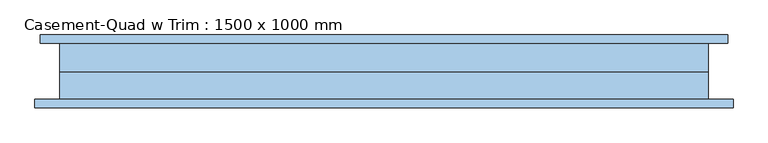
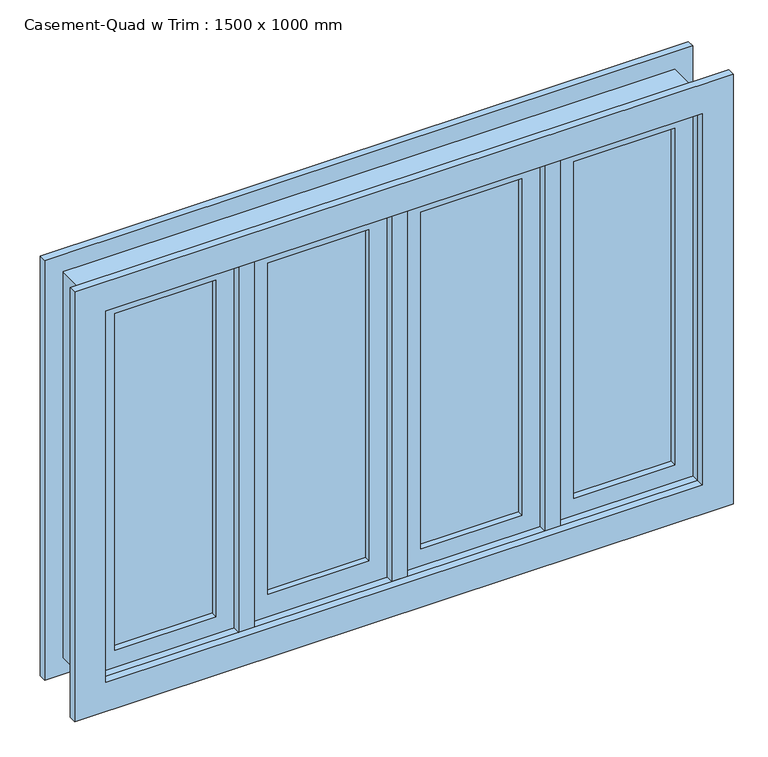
"""IFC4 building model written with IfcOpenShell, lengths in millimetres: window geometry, Casement-Quad w Trim : 1500 x 1000 mm."""

from ifc_helpers import new_model, si_unit, frame, origin, place, context, project, spatial, polyline, outline, extrude, source, transform, mapped, element, save


def casement_quad_w_trim_1500_x_1000_mm_b7d6dd6f(model_context):
    return source(origin(), model_context, "Body", "SweptSolid", [
        extrude(outline(polyline([(1958.85, 794.45), (1958.85, -794.45), (869.95, -794.45), (869.95, 794.45), (1958.85, 794.45)]), holes=[polyline([(1882.65, -718.25), (1882.65, 718.25), (946.15, 718.25), (946.15, -718.25), (1882.65, -718.25)])]), frame((0.0, 45.95, 0.0), z_axis=(0.0, 1.0, 0.0), x_axis=(0.0, 0.0, 1.0)), (0.0, 0.0, 1.0), 19.05),
        extrude(outline(polyline([(1971.55, -807.15), (857.25, -807.15), (857.25, 807.15), (1971.55, 807.15), (1971.55, -807.15)]), holes=[polyline([(1895.35, 730.95), (933.45, 730.95), (933.45, -730.95), (1895.35, -730.95), (1895.35, 730.95)])]), frame((0.0, -103.1, 0.0), z_axis=(0.0, 1.0, 0.0), x_axis=(0.0, 0.0, 1.0)), (0.0, 0.0, 1.0), 19.05),
        extrude(outline(polyline([(63.5, -49.125), (63.5, -36.425), (311.5, -36.425), (311.5, -49.125), (63.5, -49.125)])), frame((0.0, 0.0, 977.9), z_axis=(0.0, 0.0, 1.0), x_axis=(1.0, 0.0, 0.0)), (0.0, 0.0, 1.0), 873.0),
        extrude(outline(polyline([(-311.5, -49.125), (-311.5, -36.425), (-63.5, -36.425), (-63.5, -49.125), (-311.5, -49.125)])), frame((0.0, 0.0, 990.6), z_axis=(0.0, 0.0, 1.0), x_axis=(1.0, 0.0, 0.0)), (0.0, 0.0, 1.0), 860.3),
        extrude(outline(polyline([(1895.35, 19.05), (933.45, 19.05), (933.45, 355.95), (1895.35, 355.95), (1895.35, 19.05)]), holes=[polyline([(1850.9, 63.5), (1850.9, 311.5), (977.9, 311.5), (977.9, 63.5), (1850.9, 63.5)])]), frame((0.0, -65.0, 0.0), z_axis=(0.0, 1.0, 0.0), x_axis=(0.0, 0.0, 1.0)), (0.0, 0.0, 1.0), 44.45),
        extrude(outline(polyline([(1895.35, -355.95), (933.45, -355.95), (933.45, -19.05), (1895.35, -19.05), (1895.35, -355.95)]), holes=[polyline([(1850.9, -311.5), (1850.9, -63.5), (990.6, -63.5), (990.6, -311.5), (1850.9, -311.5)])]), frame((0.0, -65.0, 0.0), z_axis=(0.0, 1.0, 0.0), x_axis=(0.0, 0.0, 1.0)), (0.0, 0.0, 1.0), 44.45),
        extrude(outline(polyline([(438.5, -49.125), (438.5, -36.425), (686.5, -36.425), (686.5, -49.125), (438.5, -49.125)])), frame((0.0, 0.0, 977.9), z_axis=(0.0, 0.0, 1.0), x_axis=(1.0, 0.0, 0.0)), (0.0, 0.0, 1.0), 873.0),
        extrude(outline(polyline([(1895.35, 394.05), (933.45, 394.05), (933.45, 730.95), (1895.35, 730.95), (1895.35, 394.05)]), holes=[polyline([(1850.9, 438.5), (1850.9, 686.5), (977.9, 686.5), (977.9, 438.5), (1850.9, 438.5)])]), frame((0.0, -65.0, 0.0), z_axis=(0.0, 1.0, 0.0), x_axis=(0.0, 0.0, 1.0)), (0.0, 0.0, 1.0), 44.45),
        extrude(outline(polyline([(-355.95, -20.55), (-355.95, -84.05), (-394.05, -84.05), (-394.05, -20.55), (-355.95, -20.55)])), frame((0.0, 0.0, 933.45), z_axis=(0.0, 0.0, 1.0), x_axis=(1.0, 0.0, 0.0)), (0.0, 0.0, 1.0), 961.9),
        extrude(outline(polyline([(394.05, -20.55), (394.05, -84.05), (355.95, -84.05), (355.95, -20.55), (394.05, -20.55)])), frame((0.0, 0.0, 933.45), z_axis=(0.0, 0.0, 1.0), x_axis=(1.0, 0.0, 0.0)), (0.0, 0.0, 1.0), 961.9),
        extrude(outline(polyline([(19.05, -20.55), (19.05, -84.05), (-19.05, -84.05), (-19.05, -20.55), (19.05, -20.55)])), frame((0.0, 0.0, 933.45), z_axis=(0.0, 0.0, 1.0), x_axis=(1.0, 0.0, 0.0)), (0.0, 0.0, 1.0), 961.9),
        extrude(outline(polyline([(-438.5, -36.425), (-438.5, -49.125), (-686.5, -49.125), (-686.5, -36.425), (-438.5, -36.425)])), frame((0.0, 0.0, 977.9), z_axis=(0.0, 0.0, 1.0), x_axis=(1.0, 0.0, 0.0)), (0.0, 0.0, 1.0), 873.0),
        extrude(outline(polyline([(1895.35, -730.95), (933.45, -730.95), (933.45, -394.05), (1895.35, -394.05), (1895.35, -730.95)]), holes=[polyline([(1850.9, -686.5), (1850.9, -438.5), (977.9, -438.5), (977.9, -686.5), (1850.9, -686.5)])]), frame((0.0, -65.0, 0.0), z_axis=(0.0, 1.0, 0.0), x_axis=(0.0, 0.0, 1.0)), (0.0, 0.0, 1.0), 44.45),
        extrude(outline(polyline([(1914.4, -750.0), (914.4, -750.0), (914.4, 750.0), (1914.4, 750.0), (1914.4, -750.0)]), holes=[polyline([(1882.65, -718.25), (1882.65, 718.25), (946.15, 718.25), (946.15, -718.25), (1882.65, -718.25)])]), frame((0.0, -20.55, 0.0), z_axis=(0.0, 1.0, 0.0), x_axis=(0.0, 0.0, 1.0)), (0.0, 0.0, 1.0), 66.5),
        extrude(outline(polyline([(1914.4, 750.0), (1914.4, -750.0), (914.4, -750.0), (914.4, 750.0), (1914.4, 750.0)]), holes=[polyline([(1895.35, 730.95), (933.45, 730.95), (933.45, -730.95), (1895.35, -730.95), (1895.35, 730.95)])]), frame((0.0, -84.05, 0.0), z_axis=(0.0, 1.0, 0.0), x_axis=(0.0, 0.0, 1.0)), (0.0, 0.0, 1.0), 63.5),
    ])


if __name__ == "__main__":
    model = new_model("IFC4")
    model_context = context("Model", 3, world=origin())
    ifc_project = project(units=[si_unit("LENGTHUNIT", "METRE", prefix="MILLI")], contexts=[model_context])
    site = spatial("IfcSite", under=ifc_project)
    building = spatial("IfcBuilding", under=site)
    placement = place(None, origin())
    casement_quad_w_trim_1500_x_1000_mm_shape = casement_quad_w_trim_1500_x_1000_mm_b7d6dd6f(model_context)
    element("IfcWindow", 1, ObjectType="Casement-Quad w Trim : 1500 x 1000 mm", at=placement, inside=building, context=model_context, shape_type="MappedRepresentation", body=[
        mapped(casement_quad_w_trim_1500_x_1000_mm_shape, transform((0.0, 0.0, 0.0), x_axis=(1.0, 0.0, 0.0), y_axis=(0.0, 1.0, 0.0), z_axis=(0.0, 0.0, 1.0))),
    ])
    save(model, "model.ifc")
